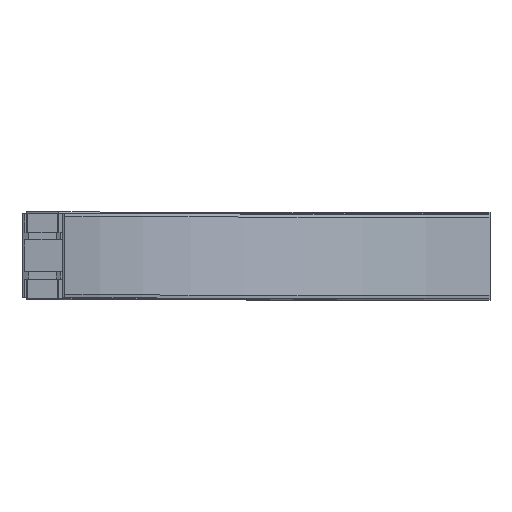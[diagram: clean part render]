
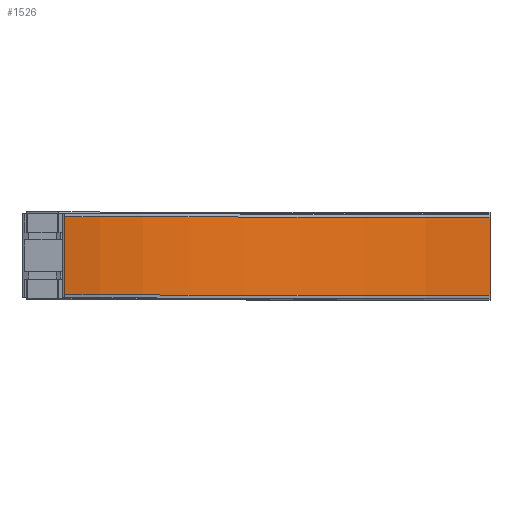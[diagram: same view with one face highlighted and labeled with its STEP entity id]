
A CAD part, top view. The second image highlights one B-rep face of the part: STEP entity #1526.
In plain terms, the highlighted cylindrical face has radius 817.5 mm (diameter 1635 mm), a partial arc.
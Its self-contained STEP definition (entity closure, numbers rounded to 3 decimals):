
#80=CYLINDRICAL_SURFACE('',#1643,817.5);
#149=FACE_OUTER_BOUND('',#236,.T.);
#236=EDGE_LOOP('',(#1052,#1053,#1054,#1055));
#323=CIRCLE('',#1633,817.5);
#328=CIRCLE('',#1642,817.5);
#400=LINE('',#2215,#526);
#401=LINE('',#2216,#527);
#526=VECTOR('',#1808,10.);
#527=VECTOR('',#1809,10.);
#643=VERTEX_POINT('',#2183);
#644=VERTEX_POINT('',#2185);
#652=VERTEX_POINT('',#2209);
#653=VERTEX_POINT('',#2211);
#799=EDGE_CURVE('',#643,#644,#323,.T.);
#813=EDGE_CURVE('',#652,#653,#328,.T.);
#814=EDGE_CURVE('',#643,#652,#400,.T.);
#815=EDGE_CURVE('',#644,#653,#401,.T.);
#1052=ORIENTED_EDGE('',*,*,#814,.T.);
#1053=ORIENTED_EDGE('',*,*,#813,.T.);
#1054=ORIENTED_EDGE('',*,*,#815,.F.);
#1055=ORIENTED_EDGE('',*,*,#799,.F.);
#1526=ADVANCED_FACE('',(#149),#80,.F.);
#1633=AXIS2_PLACEMENT_3D('',#2186,#1777,#1778);
#1642=AXIS2_PLACEMENT_3D('',#2213,#1804,#1805);
#1643=AXIS2_PLACEMENT_3D('',#2214,#1806,#1807);
#1777=DIRECTION('center_axis',(0.,1.,0.));
#1778=DIRECTION('ref_axis',(0.,0.,-1.));
#1804=DIRECTION('center_axis',(0.,1.,0.));
#1805=DIRECTION('ref_axis',(0.,0.,-1.));
#1806=DIRECTION('center_axis',(0.,1.,0.));
#1807=DIRECTION('ref_axis',(0.,0.,-1.));
#1808=DIRECTION('',(0.,1.,0.));
#1809=DIRECTION('',(0.,1.,0.));
#2183=CARTESIAN_POINT('',(0.,-65.,42.5));
#2185=CARTESIAN_POINT('',(-707.976,-65.,451.25));
#2186=CARTESIAN_POINT('Origin',(0.,-65.,860.));
#2209=CARTESIAN_POINT('',(0.,65.,42.5));
#2211=CARTESIAN_POINT('',(-707.976,65.,451.25));
#2213=CARTESIAN_POINT('Origin',(0.,65.,860.));
#2214=CARTESIAN_POINT('Origin',(0.,0.,860.));
#2215=CARTESIAN_POINT('',(0.,-65.,42.5));
#2216=CARTESIAN_POINT('',(-707.976,-65.,451.25));
